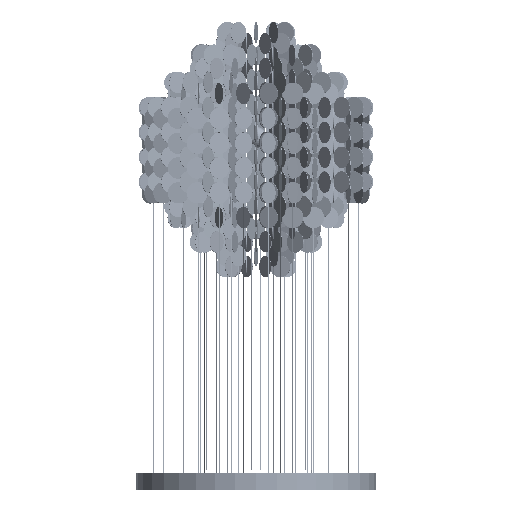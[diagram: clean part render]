
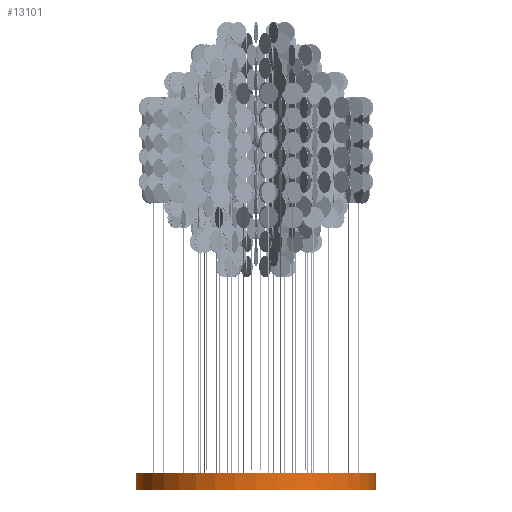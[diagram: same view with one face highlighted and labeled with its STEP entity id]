
A CAD part, front view. The second image highlights one B-rep face of the part: STEP entity #13101.
In plain terms, the highlighted cylindrical face has radius 280 mm (diameter 560 mm), a partial arc.
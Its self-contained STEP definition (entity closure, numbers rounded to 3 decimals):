
#190 = EDGE_CURVE ( 'NONE', #5929, #5100, #10508, .T. ) ;
#445 = VECTOR ( 'NONE', #12257, 1000. ) ;
#565 = CARTESIAN_POINT ( 'NONE',  ( 280., 0., 40. ) ) ;
#614 = ORIENTED_EDGE ( 'NONE', *, *, #14638, .T. ) ;
#1545 = CARTESIAN_POINT ( 'NONE',  ( 280., 0., 40. ) ) ;
#2199 = CIRCLE ( 'NONE', #17157, 280. ) ;
#2536 = AXIS2_PLACEMENT_3D ( 'NONE', #8430, #18815, #9941 ) ;
#2678 = DIRECTION ( 'NONE',  ( 0., 0., 1. ) ) ;
#2682 = AXIS2_PLACEMENT_3D ( 'NONE', #6968, #8454, #15851 ) ;
#3514 = CYLINDRICAL_SURFACE ( 'NONE', #2682, 280. ) ;
#4087 = EDGE_CURVE ( 'NONE', #5116, #11036, #2199, .T. ) ;
#4429 = LINE ( 'NONE', #16645, #445 ) ;
#5016 = CARTESIAN_POINT ( 'NONE',  ( -280., 0., 40. ) ) ;
#5100 = VERTEX_POINT ( 'NONE', #1545 ) ;
#5116 = VERTEX_POINT ( 'NONE', #16440 ) ;
#5156 = ORIENTED_EDGE ( 'NONE', *, *, #4087, .T. ) ;
#5929 = VERTEX_POINT ( 'NONE', #5016 ) ;
#6148 = CARTESIAN_POINT ( 'NONE',  ( 280., 0., 0. ) ) ;
#6802 = EDGE_LOOP ( 'NONE', ( #15747, #10655, #614, #5156 ) ) ;
#6968 = CARTESIAN_POINT ( 'NONE',  ( 0., 0., 40. ) ) ;
#8430 = CARTESIAN_POINT ( 'NONE',  ( 0., 0., 40. ) ) ;
#8454 = DIRECTION ( 'NONE',  ( 0., 0., -1. ) ) ;
#9456 = DIRECTION ( 'NONE',  ( 0., 0., -1. ) ) ;
#9941 = DIRECTION ( 'NONE',  ( 1., 0., 0. ) ) ;
#10508 = CIRCLE ( 'NONE', #2536, 280. ) ;
#10655 = ORIENTED_EDGE ( 'NONE', *, *, #190, .F. ) ;
#11036 = VERTEX_POINT ( 'NONE', #6148 ) ;
#11234 = EDGE_CURVE ( 'NONE', #5100, #11036, #14518, .T. ) ;
#11573 = CARTESIAN_POINT ( 'NONE',  ( 0., 0., 0. ) ) ;
#12257 = DIRECTION ( 'NONE',  ( 0., 0., -1. ) ) ;
#13084 = DIRECTION ( 'NONE',  ( 1., 0., 0. ) ) ;
#13101 = ADVANCED_FACE ( 'NONE', ( #17683 ), #3514, .T. ) ;
#14518 = LINE ( 'NONE', #565, #14976 ) ;
#14638 = EDGE_CURVE ( 'NONE', #5929, #5116, #4429, .T. ) ;
#14976 = VECTOR ( 'NONE', #9456, 1000. ) ;
#15747 = ORIENTED_EDGE ( 'NONE', *, *, #11234, .F. ) ;
#15851 = DIRECTION ( 'NONE',  ( -1., 0., 0. ) ) ;
#16440 = CARTESIAN_POINT ( 'NONE',  ( -280., 0., 0. ) ) ;
#16645 = CARTESIAN_POINT ( 'NONE',  ( -280., 0., 40. ) ) ;
#17157 = AXIS2_PLACEMENT_3D ( 'NONE', #11573, #2678, #13084 ) ;
#17683 = FACE_OUTER_BOUND ( 'NONE', #6802, .T. ) ;
#18815 = DIRECTION ( 'NONE',  ( 0., 0., 1. ) ) ;
